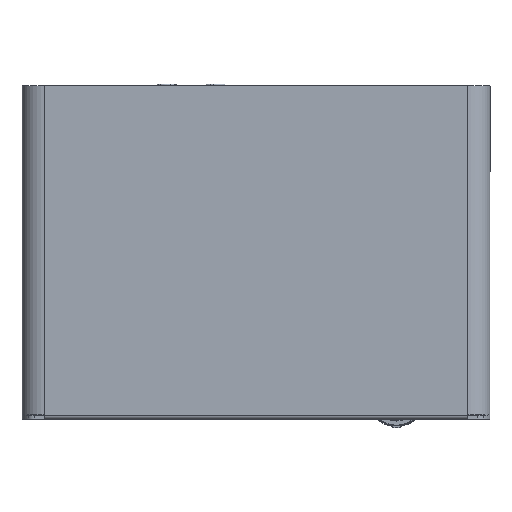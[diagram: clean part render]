
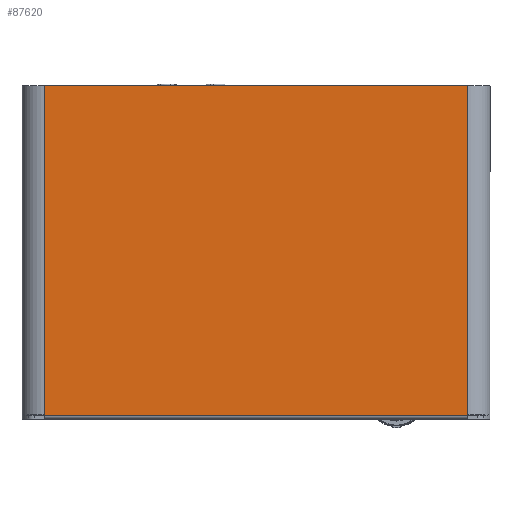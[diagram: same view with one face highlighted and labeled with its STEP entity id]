
A CAD part, top view. The second image highlights one B-rep face of the part: STEP entity #87620.
In plain terms, the highlighted planar face has unit normal (0, 0, 1).
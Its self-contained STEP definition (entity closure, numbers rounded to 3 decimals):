
#6266 = ORIENTED_EDGE ( 'NONE', *, *, #34801, .T. ) ;
#7172 = LINE ( 'NONE', #115665, #127695 ) ;
#8651 = CARTESIAN_POINT ( 'NONE',  ( 0., 0., 0. ) ) ;
#9256 = ORIENTED_EDGE ( 'NONE', *, *, #126861, .F. ) ;
#12498 = VECTOR ( 'NONE', #36023, 1000. ) ;
#14013 = CARTESIAN_POINT ( 'NONE',  ( -62.5, 43.95, 0. ) ) ;
#16714 = EDGE_CURVE ( 'NONE', #96467, #36200, #114532, .T. ) ;
#16932 = LINE ( 'NONE', #106948, #12498 ) ;
#17951 = ORIENTED_EDGE ( 'NONE', *, *, #129455, .T. ) ;
#22220 = VERTEX_POINT ( 'NONE', #85952 ) ;
#28717 = CARTESIAN_POINT ( 'NONE',  ( 56.5, -43.95, 0. ) ) ;
#31688 = CARTESIAN_POINT ( 'NONE',  ( 56.5, -43.95, 0. ) ) ;
#32455 = LINE ( 'NONE', #14013, #96448 ) ;
#34801 = EDGE_CURVE ( 'NONE', #123323, #22220, #32455, .T. ) ;
#36023 = DIRECTION ( 'NONE',  ( 0., 1., 0. ) ) ;
#36200 = VERTEX_POINT ( 'NONE', #47798 ) ;
#39181 = CARTESIAN_POINT ( 'NONE',  ( -56.5, -43.95, 0. ) ) ;
#40195 = FACE_OUTER_BOUND ( 'NONE', #123336, .T. ) ;
#47239 = VERTEX_POINT ( 'NONE', #28717 ) ;
#47798 = CARTESIAN_POINT ( 'NONE',  ( -56.5, -44.05, 0. ) ) ;
#49603 = EDGE_CURVE ( 'NONE', #22220, #68116, #63696, .T. ) ;
#63696 = LINE ( 'NONE', #93229, #97559 ) ;
#63985 = DIRECTION ( 'NONE',  ( -1., 0., 0. ) ) ;
#67434 = ORIENTED_EDGE ( 'NONE', *, *, #16714, .F. ) ;
#68116 = VERTEX_POINT ( 'NONE', #39181 ) ;
#69119 = CARTESIAN_POINT ( 'NONE',  ( 56.5, -44.05, 0. ) ) ;
#69829 = EDGE_CURVE ( 'NONE', #47239, #123323, #83515, .T. ) ;
#71774 = ORIENTED_EDGE ( 'NONE', *, *, #49603, .T. ) ;
#73531 = DIRECTION ( 'NONE',  ( 0., -1., 0. ) ) ;
#74924 = DIRECTION ( 'NONE',  ( 0., 1., 0. ) ) ;
#76507 = ORIENTED_EDGE ( 'NONE', *, *, #69829, .T. ) ;
#80426 = VECTOR ( 'NONE', #82237, 1000. ) ;
#81676 = CARTESIAN_POINT ( 'NONE',  ( 56.5, -44.05, 0. ) ) ;
#82237 = DIRECTION ( 'NONE',  ( 0., 1., 0. ) ) ;
#82468 = AXIS2_PLACEMENT_3D ( 'NONE', #8651, #110497, #120360 ) ;
#83515 = LINE ( 'NONE', #31688, #80426 ) ;
#85952 = CARTESIAN_POINT ( 'NONE',  ( -56.5, 43.95, 0. ) ) ;
#87620 = ADVANCED_FACE ( 'NONE', ( #40195 ), #109187, .F. ) ;
#90512 = VECTOR ( 'NONE', #111951, 1000. ) ;
#93229 = CARTESIAN_POINT ( 'NONE',  ( -56.5, 43.95, 0. ) ) ;
#96448 = VECTOR ( 'NONE', #63985, 1000. ) ;
#96467 = VERTEX_POINT ( 'NONE', #69119 ) ;
#97559 = VECTOR ( 'NONE', #73531, 1000. ) ;
#106948 = CARTESIAN_POINT ( 'NONE',  ( 56.5, -44.05, 0. ) ) ;
#109187 = PLANE ( 'NONE',  #82468 ) ;
#110497 = DIRECTION ( 'NONE',  ( 0., 0., -1. ) ) ;
#111951 = DIRECTION ( 'NONE',  ( -1., 0., 0. ) ) ;
#114532 = LINE ( 'NONE', #81676, #90512 ) ;
#115665 = CARTESIAN_POINT ( 'NONE',  ( -56.5, -44.05, 0. ) ) ;
#120360 = DIRECTION ( 'NONE',  ( -1., 0., 0. ) ) ;
#123323 = VERTEX_POINT ( 'NONE', #129548 ) ;
#123336 = EDGE_LOOP ( 'NONE', ( #76507, #6266, #71774, #9256, #67434, #17951 ) ) ;
#126861 = EDGE_CURVE ( 'NONE', #36200, #68116, #7172, .T. ) ;
#127695 = VECTOR ( 'NONE', #74924, 1000. ) ;
#129455 = EDGE_CURVE ( 'NONE', #96467, #47239, #16932, .T. ) ;
#129548 = CARTESIAN_POINT ( 'NONE',  ( 56.5, 43.95, 0. ) ) ;
